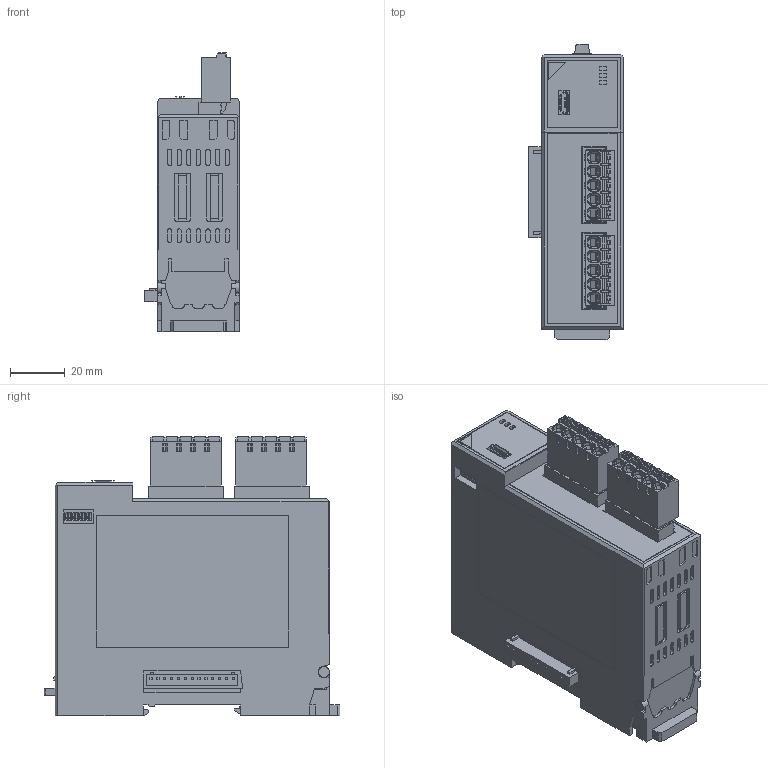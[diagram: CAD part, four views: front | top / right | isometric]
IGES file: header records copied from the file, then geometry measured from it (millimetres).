
Start section: SolidWorks IGES file using analytic representation for surfaces
Global section: file name: D:\KK\CAD_DATA\Q\Q僔儕乕僘\QAM2\D25-027\HP_3D\QAM2-2C_IGES\QAM2-2C_260721.IGS; native system: SolidWorks 2025; preprocessor: SolidWorks 2025; author: kawahara; date: 260722.094252; units: millimetre
Bounding box: 34.5 x 107.85 x 102 mm (x, y, z)
Surface area: 41941.7 mm2 (no closed solid volume)
Topology: 0 solids, 0 shells, 3658 faces, 24683 edges, 24645 vertices
Faces by surface type: bspline 2456, revolution 1202
